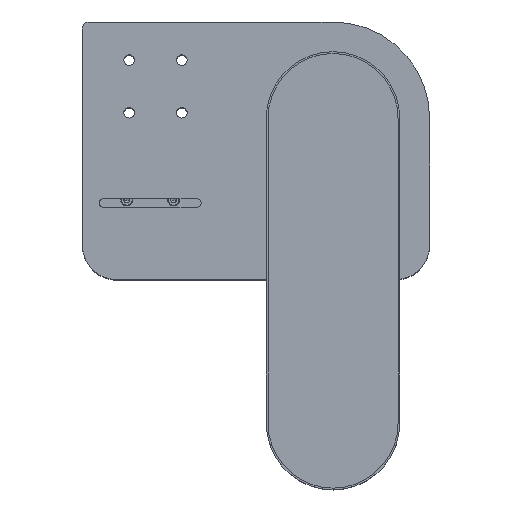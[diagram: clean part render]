
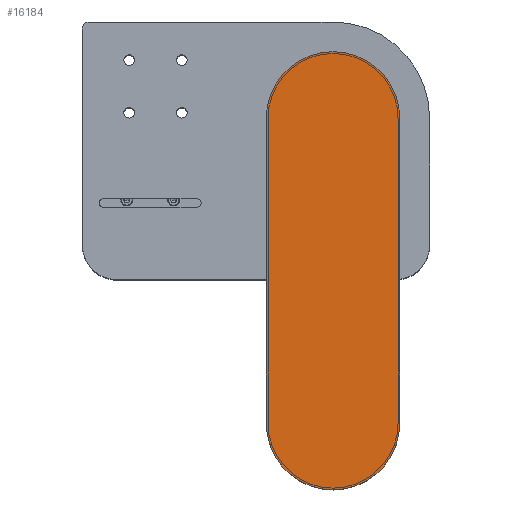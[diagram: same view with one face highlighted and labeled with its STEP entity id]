
A CAD part, top view. The second image highlights one B-rep face of the part: STEP entity #16184.
In plain terms, the highlighted planar face has unit normal (0, 0, 1) as drawn and (0, -1, 0) by its records, which use the part's own axes.
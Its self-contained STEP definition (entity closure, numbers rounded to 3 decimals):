
#2429 = CARTESIAN_POINT ( 'NONE',  ( 0., 0., 0. ) ) ;
#2431 = DIRECTION ( 'NONE',  ( 0., 1., 0. ) ) ;
#2466 = CARTESIAN_POINT ( 'NONE',  ( 260., 0., -57. ) ) ;
#2479 = CARTESIAN_POINT ( 'NONE',  ( 260., 0., 57. ) ) ;
#2481 = DIRECTION ( 'NONE',  ( 0., 0., 1. ) ) ;
#2482 = AXIS2_PLACEMENT_3D ( 'NONE', #2429, #2431, #2481 ) ;
#2483 = CIRCLE ( 'NONE', #2482, 57. ) ;
#2781 = VECTOR ( 'NONE', #2787, 1000. ) ;
#2787 = DIRECTION ( 'NONE',  ( 1., 0., 0. ) ) ;
#2788 = CARTESIAN_POINT ( 'NONE',  ( 0., 0., 57. ) ) ;
#2792 = LINE ( 'NONE', #2788, #2781 ) ;
#2941 = DIRECTION ( 'NONE',  ( 0., 0., 1. ) ) ;
#2942 = DIRECTION ( 'NONE',  ( 0., 1., 0. ) ) ;
#2950 = CARTESIAN_POINT ( 'NONE',  ( 260., 0., 0. ) ) ;
#2959 = CIRCLE ( 'NONE', #2960, 57. ) ;
#2960 = AXIS2_PLACEMENT_3D ( 'NONE', #2950, #2942, #2941 ) ;
#3800 = VECTOR ( 'NONE', #3802, 1000. ) ;
#3802 = DIRECTION ( 'NONE',  ( -1., 0., 0. ) ) ;
#3803 = CARTESIAN_POINT ( 'NONE',  ( 0., 0., -57. ) ) ;
#3807 = LINE ( 'NONE', #3803, #3800 ) ;
#4535 = AXIS2_PLACEMENT_3D ( 'NONE', #4579, #4578, #4577 ) ;
#4537 = FACE_OUTER_BOUND ( 'NONE', #17504, .T. ) ;
#4549 = PLANE ( 'NONE',  #4535 ) ;
#4577 = DIRECTION ( 'NONE',  ( 0., 0., 1. ) ) ;
#4578 = DIRECTION ( 'NONE',  ( 0., 1., 0. ) ) ;
#4579 = CARTESIAN_POINT ( 'NONE',  ( 0., 0., 0. ) ) ;
#4823 = CARTESIAN_POINT ( 'NONE',  ( 0., 0., 57. ) ) ;
#4865 = CARTESIAN_POINT ( 'NONE',  ( 0., 0., -57. ) ) ;
#14237 = EDGE_CURVE ( 'NONE', #19124, #19111, #2483, .T. ) ;
#14256 = VERTEX_POINT ( 'NONE', #2466 ) ;
#14258 = VERTEX_POINT ( 'NONE', #2479 ) ;
#14444 = EDGE_CURVE ( 'NONE', #19111, #14258, #2792, .T. ) ;
#14572 = EDGE_CURVE ( 'NONE', #14258, #14256, #2959, .T. ) ;
#14957 = ORIENTED_EDGE ( 'NONE', *, *, #14444, .F. ) ;
#15085 = ORIENTED_EDGE ( 'NONE', *, *, #14572, .F. ) ;
#15087 = EDGE_CURVE ( 'NONE', #14256, #19124, #3807, .T. ) ;
#16184 = ADVANCED_FACE ( 'NONE', ( #4537 ), #4549, .F. ) ;
#16921 = ORIENTED_EDGE ( 'NONE', *, *, #14237, .F. ) ;
#17504 = EDGE_LOOP ( 'NONE', ( #16921, #17750, #15085, #14957 ) ) ;
#17750 = ORIENTED_EDGE ( 'NONE', *, *, #15087, .F. ) ;
#19111 = VERTEX_POINT ( 'NONE', #4823 ) ;
#19124 = VERTEX_POINT ( 'NONE', #4865 ) ;
